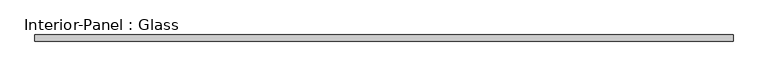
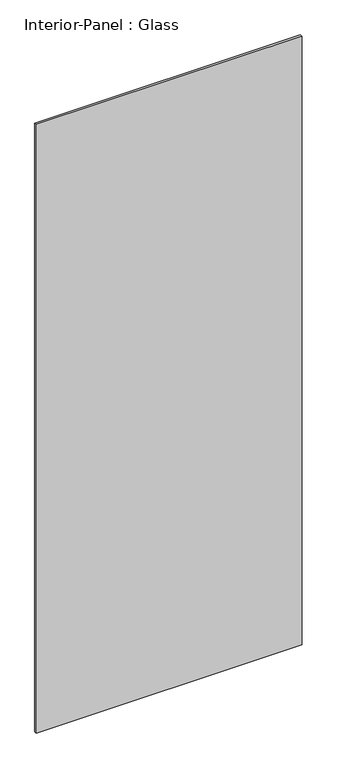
"""IFC4 building model written with IfcOpenShell, lengths in millimetres: plate geometry, Interior-Panel : Glass."""

import ifcopenshell
import ifcopenshell.guid

model = None  # the IFC model being written
_history = None  # IfcOwnerHistory: only IFC2X3 demands one
_inside = {}  # id of a spatial element -> (the spatial element, [elements in it])
_under = {}  # id of a project, library or spatial element -> (it, [spatial elements below it])
_declared = {}  # id of a project -> (the project, [libraries it declares])
_typed = {}  # id of a type object -> (the type object, [elements of that type])
_made_of = {}  # id of a material, layer set ... -> (it, [elements and type objects made of it])


def new_model(schema):
    """Start an empty IFC model of exactly this schema.

    Asked for "IFC4X3", IfcOpenShell would pick the latest addendum, in which some entities
    have other attributes; the version numbers below select the first issue.
    IFC2X3 requires an IfcOwnerHistory on every rooted entity: one is made here for all.
    """
    global model, _history
    if schema == "IFC4X3":
        model = ifcopenshell.file(schema_version=(4, 3, 0, 0))
    else:
        model = ifcopenshell.file(schema=schema)
    _inside.clear()
    _under.clear()
    _declared.clear()
    _typed.clear()
    _made_of.clear()
    _history = None
    if model.schema == "IFC2X3":
        org = make("IfcOrganization", Name="unknown")
        user = make(
            "IfcPersonAndOrganization",
            ThePerson=make("IfcPerson", FamilyName="unknown"),
            TheOrganization=org,
        )
        app = make(
            "IfcApplication",
            ApplicationDeveloper=org,
            Version="unknown",
            ApplicationFullName="unknown",
            ApplicationIdentifier="unknown",
        )
        _history = make(
            "IfcOwnerHistory",
            OwningUser=user,
            OwningApplication=app,
            ChangeAction="ADDED",
            CreationDate=0,
        )
    return model


def make(cls, **values):
    """One entity of the class cls with the attributes given. An attribute that is None is left unset."""
    return model.create_entity(
        cls, **{name: value for name, value in values.items() if value is not None}
    )


def rooted(cls, **values):
    """An entity with a GlobalId (a new one), such as an element, a storey or a relation."""
    return make(cls, GlobalId=ifcopenshell.guid.new(), OwnerHistory=_history, **values)


def si_unit(unit_type, name, prefix=None):
    """IfcSIUnit, for example si_unit("LENGTHUNIT", "METRE", prefix="MILLI")."""
    return make("IfcSIUnit", UnitType=unit_type, Prefix=prefix, Name=name)


def assignment(units):
    """IfcUnitAssignment: the units of a project."""
    return None if units is None else make("IfcUnitAssignment", Units=units)


def point(xyz):
    """IfcCartesianPoint."""
    return None if xyz is None else make("IfcCartesianPoint", Coordinates=xyz)


def direction(xyz):
    """IfcDirection."""
    return None if xyz is None else make("IfcDirection", DirectionRatios=xyz)


def frame(location, z_axis=None, x_axis=None):
    """IfcAxis2Placement3D, a coordinate frame: its origin and axes. An axis left out is left unset."""
    return make(
        "IfcAxis2Placement3D",
        Location=point(location),
        Axis=direction(z_axis),
        RefDirection=direction(x_axis),
    )


def origin():
    """The frame at (0, 0, 0) with its axes left unset."""
    return frame((0.0, 0.0, 0.0))


def origin_with_axes():
    """The frame at (0, 0, 0) with the z axis (0, 0, 1) and the x axis (1, 0, 0) written out."""
    return frame((0.0, 0.0, 0.0), z_axis=(0.0, 0.0, 1.0), x_axis=(1.0, 0.0, 0.0))


def place(relative_to, where):
    """IfcLocalPlacement: puts the frame where relative to a parent placement (None: the world)."""
    return make(
        "IfcLocalPlacement", PlacementRelTo=relative_to, RelativePlacement=where
    )


def context(
    kind, dimensions, precision=None, world=None, true_north=None, identifier=None
):
    """IfcGeometricRepresentationContext, for example the 3D "Model" context."""
    return make(
        "IfcGeometricRepresentationContext",
        ContextIdentifier=identifier,
        ContextType=kind,
        CoordinateSpaceDimension=dimensions,
        Precision=precision,
        WorldCoordinateSystem=world,
        TrueNorth=true_north,
    )


def project(units=None, contexts=None):
    """IfcProject with its units and contexts."""
    return rooted(
        "IfcProject",
        Name="project",
        RepresentationContexts=contexts,
        UnitsInContext=assignment(units),
    )


def spatial(cls, under=None, at=None, **own):
    """A site, building, storey or space (cls), placed at a placement, below another one or the project."""
    s = rooted(cls, ObjectPlacement=at, **own)
    if under is not None:
        _under.setdefault(under.id(), (under, []))[1].append(s)
    return s


def polyline(points):
    """IfcPolyline through the points."""
    return make("IfcPolyline", Points=[point(p) for p in points])


def outline(outer, holes=None, kind="AREA"):
    """IfcArbitraryClosedProfileDef: a profile drawn as a closed curve; with holes, ...WithVoids."""
    if holes is None:
        return make("IfcArbitraryClosedProfileDef", ProfileType=kind, OuterCurve=outer)
    return make(
        "IfcArbitraryProfileDefWithVoids",
        ProfileType=kind,
        OuterCurve=outer,
        InnerCurves=holes,
    )


def extrude(swept, where, along, depth):
    """IfcExtrudedAreaSolid: the profile swept, set in the frame where, extruded along a direction by depth."""
    return make(
        "IfcExtrudedAreaSolid",
        SweptArea=swept,
        Position=where,
        ExtrudedDirection=direction(along),
        Depth=depth,
    )


def shape(context_of_items, identifier, shape_type, items):
    """IfcShapeRepresentation: the items that make up one representation, for example the "Body"."""
    return make(
        "IfcShapeRepresentation",
        ContextOfItems=context_of_items,
        RepresentationIdentifier=identifier,
        RepresentationType=shape_type,
        Items=items,
    )


def source(mapping_origin, context_of_items, identifier, shape_type, items):
    """IfcRepresentationMap: a shape defined once, which mapped items show again and again."""
    return make(
        "IfcRepresentationMap",
        MappingOrigin=mapping_origin,
        MappedRepresentation=shape(context_of_items, identifier, shape_type, items),
    )


def transform(
    local_origin,
    x_axis=None,
    y_axis=None,
    z_axis=None,
    scale=None,
    scale2=None,
    scale3=None,
    uniform=True,
):
    """IfcCartesianTransformationOperator3D, or its non-uniform kind. x_axis, y_axis, z_axis: its Axis1, 2, 3."""
    if uniform:
        return make(
            "IfcCartesianTransformationOperator3D",
            Axis1=direction(x_axis),
            Axis2=direction(y_axis),
            LocalOrigin=point(local_origin),
            Scale=scale,
            Axis3=direction(z_axis),
        )
    return make(
        "IfcCartesianTransformationOperator3DnonUniform",
        Axis1=direction(x_axis),
        Axis2=direction(y_axis),
        LocalOrigin=point(local_origin),
        Scale=scale,
        Axis3=direction(z_axis),
        Scale2=scale2,
        Scale3=scale3,
    )


def mapped(mapping_source, mapping_target):
    """IfcMappedItem: shows the shape of a source again, moved by a transform."""
    return make(
        "IfcMappedItem", MappingSource=mapping_source, MappingTarget=mapping_target
    )


def made_of(thing, what):
    """Note that an element or type object is made of a material, layer set ...; save() writes the relation."""
    if what is not None:
        _made_of.setdefault(what.id(), (what, []))[1].append(thing)
    return thing


def element(
    cls,
    number,
    at=None,
    inside=None,
    cuts=None,
    type_object=None,
    material=None,
    context=None,
    identifier="Body",
    shape_type=None,
    held_by="IfcProductDefinitionShape",
    body=None,
    shapes=None,
    **own,
):
    """One element of the class cls, such as IfcWall. Its Tag is "e" and its number.

    at: its placement. inside: the storey or other place that contains it. cuts: it is an
    opening in that element (IfcRelVoidsElement). A single representation is given by context,
    identifier, shape_type and body (its items); several are given by shapes. held_by: the class
    of the entity that holds the representations. save() writes the other relations.
    """
    e = rooted(cls, Tag="e%d" % number, ObjectPlacement=at, **own)
    if body is not None:
        shapes = [shape(context, identifier, shape_type, body)]
    if shapes is not None:
        e.Representation = make(held_by, Representations=shapes)
    if inside is not None:
        _inside.setdefault(inside.id(), (inside, []))[1].append(e)
    if cuts is not None:
        rooted(
            "IfcRelVoidsElement", RelatingBuildingElement=cuts, RelatedOpeningElement=e
        )
    if type_object is not None:
        _typed.setdefault(type_object.id(), (type_object, []))[1].append(e)
    return made_of(e, material)


def aggregate(whole, parts):
    """IfcRelAggregates: a whole, such as a stair, and the parts it consists of."""
    return rooted("IfcRelAggregates", RelatingObject=whole, RelatedObjects=parts)


def save(model, path):
    """Write the relations noted so far, then the file.

    IfcRelAggregates (storeys below a building ...), IfcRelContainedInSpatialStructure (elements
    in a storey), IfcRelDefinesByType, IfcRelAssociatesMaterial and IfcRelDeclares: one each for
    every whole, place, type object, material and project.
    """
    for whole, parts in _under.values():
        aggregate(whole, parts)
    for where, things in _inside.values():
        rooted(
            "IfcRelContainedInSpatialStructure",
            RelatedElements=things,
            RelatingStructure=where,
        )
    for kind, things in _typed.values():
        rooted("IfcRelDefinesByType", RelatedObjects=things, RelatingType=kind)
    for what, things in _made_of.values():
        rooted("IfcRelAssociatesMaterial", RelatedObjects=things, RelatingMaterial=what)
    for by, libraries in _declared.values():
        rooted("IfcRelDeclares", RelatingContext=by, RelatedDefinitions=libraries)
    model.write(path)


def interior_panel_glass_f77e83d4(model_context):
    return source(origin(), model_context, "Body", "SweptSolid", [
        extrude(outline(polyline([(537.5, -50.0), (-537.5, -50.0), (-537.5, -40.0), (537.5, -40.0), (537.5, -50.0)])), origin_with_axes(), (0.0, 0.0, 1.0), 2600.0),
    ])


if __name__ == "__main__":
    model = new_model("IFC4")
    model_context = context("Model", 3, world=origin())
    ifc_project = project(units=[si_unit("LENGTHUNIT", "METRE", prefix="MILLI")], contexts=[model_context])
    site = spatial("IfcSite", under=ifc_project)
    building = spatial("IfcBuilding", under=site)
    placement = place(None, origin())
    interior_panel_glass_shape = interior_panel_glass_f77e83d4(model_context)
    element("IfcPlate", 1, ObjectType="Interior-Panel : Glass", at=placement, inside=building, context=model_context, shape_type="MappedRepresentation", body=[
        mapped(interior_panel_glass_shape, transform((0.0, 0.0, 0.0), x_axis=(1.0, 0.0, 0.0), y_axis=(0.0, 1.0, 0.0), z_axis=(0.0, 0.0, 1.0))),
    ])
    save(model, "model.ifc")
